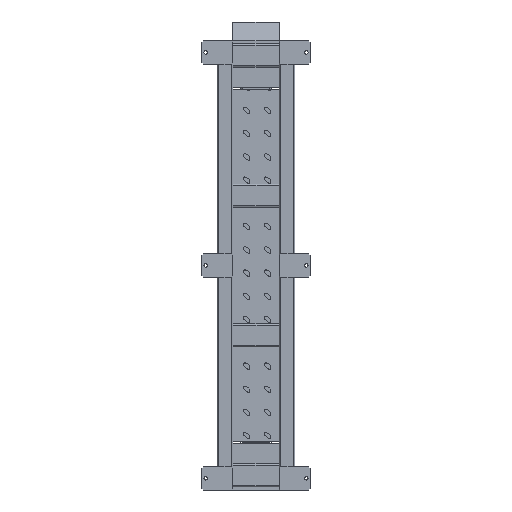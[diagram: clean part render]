
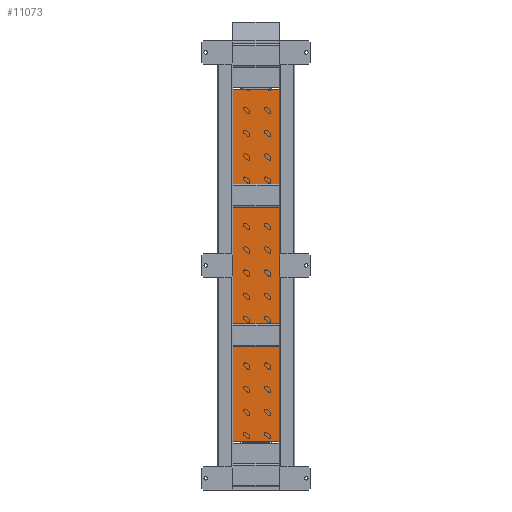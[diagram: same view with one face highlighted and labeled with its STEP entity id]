
A CAD part, front view. The second image highlights one B-rep face of the part: STEP entity #11073.
In plain terms, the highlighted planar face has unit normal (0, -1, 0) as drawn and (0, 0, -1) by its records, which use the part's own axes.
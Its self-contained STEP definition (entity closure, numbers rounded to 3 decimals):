
#802 = EDGE_CURVE ( 'NONE', #66867, #72658, #90662, .T. ) ;
#6304 = DIRECTION ( 'NONE',  ( 1., 0., 0. ) ) ;
#8983 = ORIENTED_EDGE ( 'NONE', *, *, #55025, .F. ) ;
#11073 = ADVANCED_FACE ( 'NONE', ( #44626 ), #15307, .F. ) ;
#13064 = CARTESIAN_POINT ( 'NONE',  ( -1310., -242.5, 0. ) ) ;
#13863 = LINE ( 'NONE', #29348, #49105 ) ;
#15307 = PLANE ( 'NONE',  #90093 ) ;
#16219 = VERTEX_POINT ( 'NONE', #76806 ) ;
#21869 = CARTESIAN_POINT ( 'NONE',  ( 960., 242.5, 0. ) ) ;
#29348 = CARTESIAN_POINT ( 'NONE',  ( 960., -242.5, 0. ) ) ;
#29395 = DIRECTION ( 'NONE',  ( 1., 0., 0. ) ) ;
#36470 = DIRECTION ( 'NONE',  ( 0., 1., 0. ) ) ;
#38758 = LINE ( 'NONE', #81917, #88308 ) ;
#39766 = DIRECTION ( 'NONE',  ( 0., -1., 0. ) ) ;
#44626 = FACE_OUTER_BOUND ( 'NONE', #70965, .T. ) ;
#45852 = EDGE_CURVE ( 'NONE', #78316, #16219, #90796, .T. ) ;
#49105 = VECTOR ( 'NONE', #36470, 1000. ) ;
#51399 = ORIENTED_EDGE ( 'NONE', *, *, #802, .F. ) ;
#55025 = EDGE_CURVE ( 'NONE', #72658, #78316, #38758, .T. ) ;
#58956 = ORIENTED_EDGE ( 'NONE', *, *, #76113, .F. ) ;
#63869 = CARTESIAN_POINT ( 'NONE',  ( -1310., -242.5, 0. ) ) ;
#64543 = CARTESIAN_POINT ( 'NONE',  ( 0., 0., 0. ) ) ;
#66867 = VERTEX_POINT ( 'NONE', #21869 ) ;
#70270 = ORIENTED_EDGE ( 'NONE', *, *, #45852, .F. ) ;
#70965 = EDGE_LOOP ( 'NONE', ( #51399, #58956, #70270, #8983 ) ) ;
#71606 = DIRECTION ( 'NONE',  ( 0., 0., 1. ) ) ;
#72030 = VECTOR ( 'NONE', #6304, 1000. ) ;
#72658 = VERTEX_POINT ( 'NONE', #89285 ) ;
#76113 = EDGE_CURVE ( 'NONE', #16219, #66867, #13863, .T. ) ;
#76806 = CARTESIAN_POINT ( 'NONE',  ( 960., -242.5, 0. ) ) ;
#78316 = VERTEX_POINT ( 'NONE', #63869 ) ;
#79643 = CARTESIAN_POINT ( 'NONE',  ( -1310., 242.5, 0. ) ) ;
#81917 = CARTESIAN_POINT ( 'NONE',  ( -1310., 242.5, 0. ) ) ;
#88262 = DIRECTION ( 'NONE',  ( -1., 0., 0. ) ) ;
#88308 = VECTOR ( 'NONE', #39766, 1000. ) ;
#88445 = VECTOR ( 'NONE', #88262, 1000. ) ;
#89285 = CARTESIAN_POINT ( 'NONE',  ( -1310., 242.5, 0. ) ) ;
#90093 = AXIS2_PLACEMENT_3D ( 'NONE', #64543, #71606, #29395 ) ;
#90662 = LINE ( 'NONE', #79643, #88445 ) ;
#90796 = LINE ( 'NONE', #13064, #72030 ) ;
